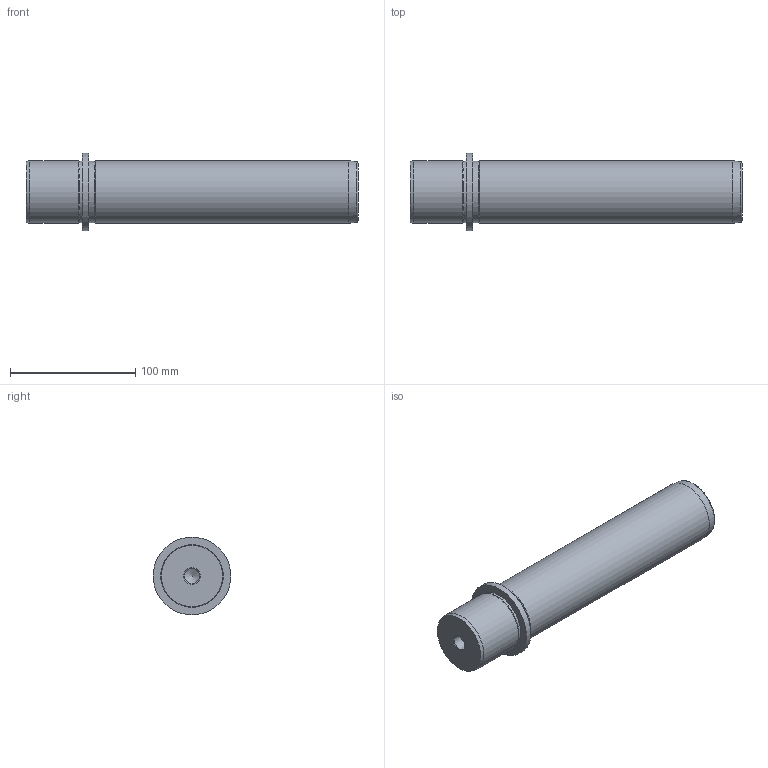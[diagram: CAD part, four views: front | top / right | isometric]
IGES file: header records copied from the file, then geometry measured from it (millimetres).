
Global section: file name: CE50220.ipt; native system: Autodesk Inventor 2021; preprocessor: unknown; author: SM; date: 20211217.134422; units: millimetre
Bounding box: 265 x 62 x 62 mm (x, y, z)
Volume: 521183.6 mm3; surface area: 48720.7 mm2
Topology: 1 solids, 1 shells, 17 faces, 35 edges, 22 vertices
Faces by surface type: cylinder 5, cone 4, plane 4, revolution 3, bspline 1
Full cylindrical faces by diameter (mm): 49 x2, 50 x2, 62 x1
